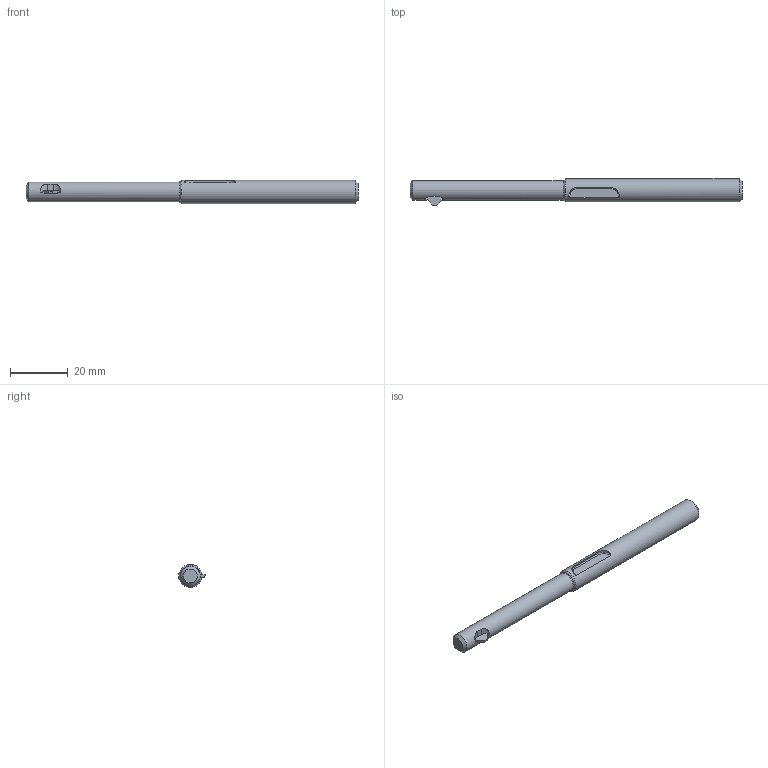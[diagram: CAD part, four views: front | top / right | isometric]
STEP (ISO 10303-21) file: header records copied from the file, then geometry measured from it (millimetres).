
FILE_DESCRIPTION(/* description */ (''),/* implementation_level */ '2;1');
FILE_NAME(/* name */ 'X:\EDF\EDF-OPEN\EDF-865\מודל מעודכן\U burr\קבצי STEP\Ass-Uburr Ø7mm_Simplify_1.stp',/* time_stamp */ '2023-03-02T14:53:32+02:00',/* author */ ('adva'),/* organization */ (''),/* preprocessor_version */ 'ST-DEVELOPER v18.1',/* originating_system */ 'Autodesk Inventor 2022',/* authorisation */ '');
FILE_SCHEMA (('CONFIG_CONTROL_DESIGN'));
Length unit declared in the file: millimetre
Products named in the file (1): Ass-Uburr Ø7mm_Simplify_1
Bounding box: 115 x 9.14 x 8 mm (x, y, z)
Volume: 4963.1 mm3; surface area: 2780 mm2
Topology: 1 solids, 1 shells, 32 faces, 77 edges, 49 vertices
Faces by surface type: plane 16, cylinder 10, torus 3, cone 3
Full cylindrical faces by diameter (mm): 6.8 x1, 8 x1
Entity records: 1075 total; most frequent: CARTESIAN_POINT 229, DIRECTION 167, ORIENTED_EDGE 154, EDGE_CURVE 77, AXIS2_PLACEMENT_3D 63, VERTEX_POINT 49, LINE 41, VECTOR 41
